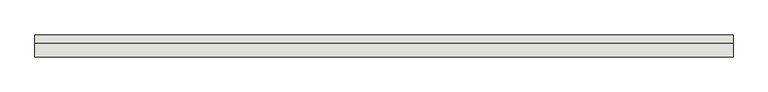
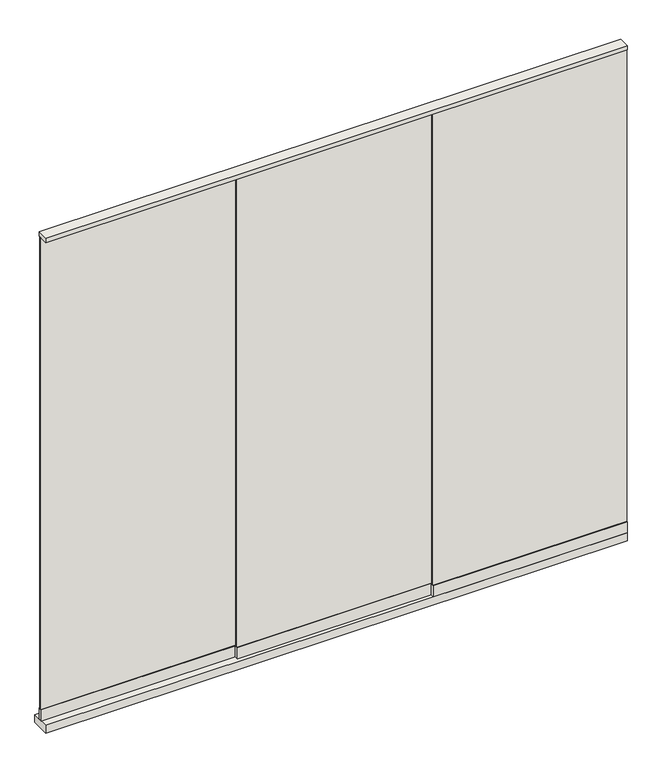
"""IFC4 building model written with IfcOpenShell, lengths in millimetres: wall geometry, Renson_Algarve_Glass_Sliding_Panel : Renson_Algarve_Glass_Sliding_Panel."""

from ifc_helpers import new_model, si_unit, frame, origin, origin_with_axes, place, context, project, spatial, polyline, outline, extrude, source, transform, mapped, element, save


def wall_6bacda9c(model_context):
    return source(origin(), model_context, "Body", "SweptSolid", [
        extrude(outline(polyline([(750.0, 0.0), (-1750.0, 0.0), (-1750.0, 80.0), (750.0, 80.0), (750.0, 0.0)])), origin_with_axes(), (0.0, 0.0, 1.0), 35.0),
        extrude(outline(polyline([(750.0, 3.0), (-83.3333333, 3.0), (-83.3333333, 13.0), (750.0, 13.0), (750.0, 3.0)])), frame((0.0, 0.0, 86.0), z_axis=(0.0, 0.0, 1.0), x_axis=(1.0, 0.0, 0.0)), (0.0, 0.0, 1.0), 2144.0),
        extrude(outline(polyline([(-48.3333333, 19.0), (-916.6666667, 19.0), (-916.6666667, 29.0), (-48.3333333, 29.0), (-48.3333333, 19.0)])), frame((0.0, 0.0, 86.0), z_axis=(0.0, 0.0, 1.0), x_axis=(1.0, 0.0, 0.0)), (0.0, 0.0, 1.0), 2144.0),
        extrude(outline(polyline([(-881.6666667, 35.0), (-1750.0, 35.0), (-1750.0, 45.0), (-881.6666667, 45.0), (-881.6666667, 35.0)])), frame((0.0, 0.0, 86.0), z_axis=(0.0, 0.0, 1.0), x_axis=(1.0, 0.0, 0.0)), (0.0, 0.0, 1.0), 2144.0),
        extrude(outline(polyline([(750.0, 0.0), (-1750.0, 0.0), (-1750.0, 48.0), (750.0, 48.0), (750.0, 0.0)])), frame((0.0, 0.0, 2230.0), z_axis=(0.0, 0.0, 1.0), x_axis=(1.0, 0.0, 0.0)), (0.0, 0.0, 1.0), 20.0),
        extrude(outline(polyline([(750.0, 0.0), (-83.3333333, 0.0), (-83.3333333, 16.0), (750.0, 16.0), (750.0, 0.0)])), frame((0.0, 0.0, 35.0), z_axis=(0.0, 0.0, 1.0), x_axis=(1.0, 0.0, 0.0)), (0.0, 0.0, 1.0), 51.0),
        extrude(outline(polyline([(-48.3333333, 16.0), (-916.6666667, 16.0), (-916.6666667, 32.0), (-48.3333333, 32.0), (-48.3333333, 16.0)])), frame((0.0, 0.0, 35.0), z_axis=(0.0, 0.0, 1.0), x_axis=(1.0, 0.0, 0.0)), (0.0, 0.0, 1.0), 51.0),
        extrude(outline(polyline([(-881.6666667, 32.0), (-1750.0, 32.0), (-1750.0, 48.0), (-881.6666667, 48.0), (-881.6666667, 32.0)])), frame((0.0, 0.0, 35.0), z_axis=(0.0, 0.0, 1.0), x_axis=(1.0, 0.0, 0.0)), (0.0, 0.0, 1.0), 51.0),
    ])


if __name__ == "__main__":
    model = new_model("IFC4")
    model_context = context("Model", 3, world=origin())
    ifc_project = project(units=[si_unit("LENGTHUNIT", "METRE", prefix="MILLI")], contexts=[model_context])
    site = spatial("IfcSite", under=ifc_project)
    building = spatial("IfcBuilding", under=site)
    placement = place(None, origin())
    wall_shape = wall_6bacda9c(model_context)
    element("IfcWall", 1, ObjectType="Renson_Algarve_Glass_Sliding_Panel : Renson_Algarve_Glass_Sliding_Panel", at=placement, inside=building, context=model_context, shape_type="MappedRepresentation", body=[
        mapped(wall_shape, transform((0.0, 0.0, 0.0), x_axis=(1.0, 0.0, 0.0), y_axis=(0.0, 1.0, 0.0), z_axis=(0.0, 0.0, 1.0))),
    ])
    save(model, "model.ifc")
